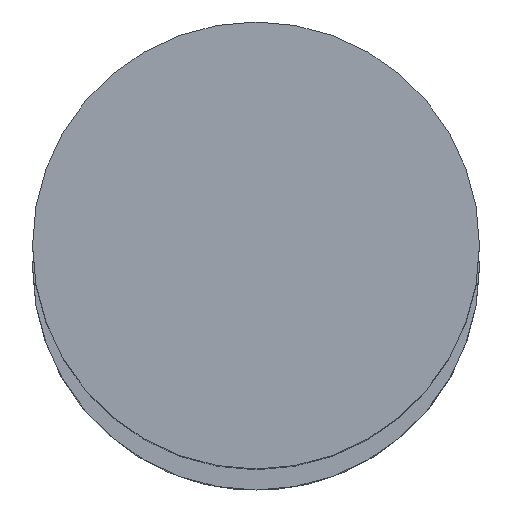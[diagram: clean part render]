
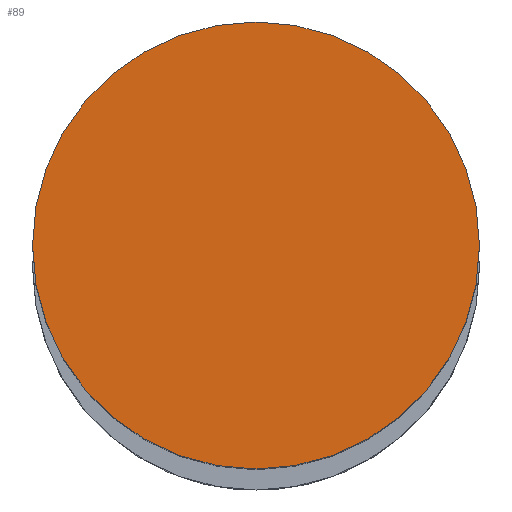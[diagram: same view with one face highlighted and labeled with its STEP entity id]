
A CAD part, top view. The second image highlights one B-rep face of the part: STEP entity #89.
In plain terms, the highlighted planar face has unit normal (0, 0, 1).
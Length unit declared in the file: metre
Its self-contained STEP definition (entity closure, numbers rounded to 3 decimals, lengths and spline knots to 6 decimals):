
#89=ADVANCED_FACE('0:129',(#177),#178,.T.);
#177=FACE_OUTER_BOUND('',#269,.T.);
#178=PLANE('',#270);
#269=EDGE_LOOP('',(#430,#431));
#270=AXIS2_PLACEMENT_3D('',#432,#433,#434);
#430=ORIENTED_EDGE('',*,*,#503,.F.);
#431=ORIENTED_EDGE('',*,*,#549,.F.);
#432=CARTESIAN_POINT('',(0.,0.,0.359));
#433=DIRECTION('',(0.0,0.0,1.0));
#434=DIRECTION('',(1.0,0.0,0.0));
#503=EDGE_CURVE('13:581',#587,#583,#589,.F.);
#549=EDGE_CURVE('',#583,#587,#656,.F.);
#583=VERTEX_POINT('',#707);
#587=VERTEX_POINT('',#712);
#589=CIRCLE('',#715,0.008);
#656=CIRCLE('',#796,0.008);
#707=CARTESIAN_POINT('',(0.00789,0.000133,0.359));
#712=CARTESIAN_POINT('',(-0.00811,0.000133,0.359));
#715=AXIS2_PLACEMENT_3D('',#856,#857,#858);
#796=AXIS2_PLACEMENT_3D('',#924,#925,#926);
#856=CARTESIAN_POINT('',(-0.00011,0.000133,0.359));
#857=DIRECTION('',(0.0,0.0,1.0));
#858=DIRECTION('',(1.0,0.0,0.0));
#924=CARTESIAN_POINT('',(-0.00011,0.000133,0.359));
#925=DIRECTION('',(0.0,0.0,1.0));
#926=DIRECTION('',(1.0,0.0,0.0));
